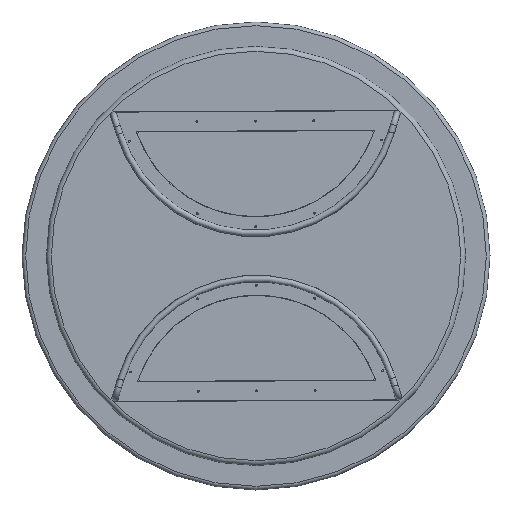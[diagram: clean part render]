
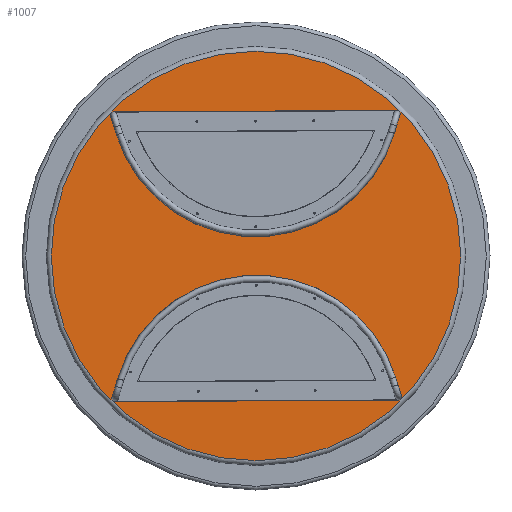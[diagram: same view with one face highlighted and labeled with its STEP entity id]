
A CAD part, front view. The second image highlights one B-rep face of the part: STEP entity #1007.
In plain terms, the highlighted planar face has unit normal (0, -1, 0).
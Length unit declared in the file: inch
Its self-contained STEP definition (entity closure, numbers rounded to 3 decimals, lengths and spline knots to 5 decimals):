
#59=FACE_BOUND('',#341,.T.);
#60=FACE_BOUND('',#342,.T.);
#86=LINE('',#1768,#150);
#91=LINE('',#1782,#155);
#95=LINE('',#1794,#159);
#98=LINE('',#1807,#162);
#99=LINE('',#1811,#163);
#100=LINE('',#1815,#164);
#150=VECTOR('',#1412,0.3937);
#155=VECTOR('',#1425,0.3937);
#159=VECTOR('',#1437,0.3937);
#162=VECTOR('',#1452,0.3937);
#163=VECTOR('',#1455,0.3937);
#164=VECTOR('',#1458,0.3937);
#279=FACE_OUTER_BOUND('',#340,.T.);
#340=EDGE_LOOP('',(#754));
#341=EDGE_LOOP('',(#755,#756,#757,#758,#759,#760));
#342=EDGE_LOOP('',(#761,#762,#763,#764,#765,#766));
#416=CIRCLE('',#1237,14.91674);
#418=CIRCLE('',#1241,0.34375);
#420=CIRCLE('',#1245,0.34375);
#422=CIRCLE('',#1249,21.);
#423=CIRCLE('',#1250,0.34375);
#424=CIRCLE('',#1251,0.34375);
#425=CIRCLE('',#1252,14.91674);
#484=VERTEX_POINT('',#1766);
#485=VERTEX_POINT('',#1767);
#488=VERTEX_POINT('',#1775);
#490=VERTEX_POINT('',#1781);
#492=VERTEX_POINT('',#1787);
#494=VERTEX_POINT('',#1793);
#496=VERTEX_POINT('',#1803);
#497=VERTEX_POINT('',#1805);
#498=VERTEX_POINT('',#1806);
#499=VERTEX_POINT('',#1808);
#500=VERTEX_POINT('',#1810);
#501=VERTEX_POINT('',#1812);
#502=VERTEX_POINT('',#1814);
#579=EDGE_CURVE('',#484,#485,#86,.T.);
#583=EDGE_CURVE('',#485,#488,#416,.T.);
#586=EDGE_CURVE('',#488,#490,#91,.T.);
#589=EDGE_CURVE('',#490,#492,#418,.T.);
#592=EDGE_CURVE('',#492,#494,#95,.T.);
#595=EDGE_CURVE('',#494,#484,#420,.T.);
#597=EDGE_CURVE('',#496,#496,#422,.T.);
#598=EDGE_CURVE('',#497,#498,#98,.T.);
#599=EDGE_CURVE('',#498,#499,#423,.T.);
#600=EDGE_CURVE('',#499,#500,#99,.T.);
#601=EDGE_CURVE('',#500,#501,#424,.T.);
#602=EDGE_CURVE('',#501,#502,#100,.T.);
#603=EDGE_CURVE('',#502,#497,#425,.T.);
#754=ORIENTED_EDGE('',*,*,#597,.F.);
#755=ORIENTED_EDGE('',*,*,#598,.T.);
#756=ORIENTED_EDGE('',*,*,#599,.T.);
#757=ORIENTED_EDGE('',*,*,#600,.T.);
#758=ORIENTED_EDGE('',*,*,#601,.T.);
#759=ORIENTED_EDGE('',*,*,#602,.T.);
#760=ORIENTED_EDGE('',*,*,#603,.T.);
#761=ORIENTED_EDGE('',*,*,#579,.T.);
#762=ORIENTED_EDGE('',*,*,#583,.T.);
#763=ORIENTED_EDGE('',*,*,#586,.T.);
#764=ORIENTED_EDGE('',*,*,#589,.T.);
#765=ORIENTED_EDGE('',*,*,#592,.T.);
#766=ORIENTED_EDGE('',*,*,#595,.T.);
#973=PLANE('',#1248);
#1007=ADVANCED_FACE('',(#279,#59,#60),#973,.F.);
#1237=AXIS2_PLACEMENT_3D('',#1776,#1418,#1419);
#1241=AXIS2_PLACEMENT_3D('',#1788,#1430,#1431);
#1245=AXIS2_PLACEMENT_3D('',#1799,#1442,#1443);
#1248=AXIS2_PLACEMENT_3D('',#1802,#1448,#1449);
#1249=AXIS2_PLACEMENT_3D('',#1804,#1450,#1451);
#1250=AXIS2_PLACEMENT_3D('',#1809,#1453,#1454);
#1251=AXIS2_PLACEMENT_3D('',#1813,#1456,#1457);
#1252=AXIS2_PLACEMENT_3D('',#1816,#1459,#1460);
#1412=DIRECTION('',(0.294,0.,0.956));
#1418=DIRECTION('center_axis',(0.,1.,0.));
#1419=DIRECTION('ref_axis',(-0.956,0.,0.294));
#1425=DIRECTION('',(0.294,0.,-0.956));
#1430=DIRECTION('center_axis',(0.,1.,0.));
#1431=DIRECTION('ref_axis',(0.956,0.,0.294));
#1437=DIRECTION('',(-1.,0.,0.));
#1442=DIRECTION('center_axis',(0.,1.,0.));
#1443=DIRECTION('ref_axis',(0.,0.,-1.));
#1448=DIRECTION('center_axis',(0.,1.,0.));
#1449=DIRECTION('ref_axis',(0.,0.,1.));
#1450=DIRECTION('center_axis',(0.,1.,0.));
#1451=DIRECTION('ref_axis',(1.,0.,0.));
#1452=DIRECTION('',(-0.294,0.,0.956));
#1453=DIRECTION('center_axis',(0.,1.,0.));
#1454=DIRECTION('ref_axis',(0.,0.,1.));
#1455=DIRECTION('',(1.,0.,0.));
#1456=DIRECTION('center_axis',(0.,1.,0.));
#1457=DIRECTION('ref_axis',(0.956,0.,-0.294));
#1458=DIRECTION('',(-0.294,0.,-0.956));
#1459=DIRECTION('center_axis',(0.,1.,0.));
#1460=DIRECTION('ref_axis',(-0.956,0.,-0.294));
#1766=CARTESIAN_POINT('',(-14.84638,0.,-14.41684));
#1767=CARTESIAN_POINT('',(-14.25906,0.,-12.50502));
#1768=CARTESIAN_POINT('',(-11.88906,0.,-4.79035));
#1775=CARTESIAN_POINT('',(14.25906,0.,-12.50502));
#1776=CARTESIAN_POINT('Origin',(0.,0.,-16.88549));
#1781=CARTESIAN_POINT('',(14.84638,0.,-14.41684));
#1782=CARTESIAN_POINT('',(12.18272,0.,-5.74626));
#1787=CARTESIAN_POINT('',(14.51779,0.,-14.86154));
#1788=CARTESIAN_POINT('Origin',(14.51779,0.,-14.51779));
#1793=CARTESIAN_POINT('',(-14.51779,0.,-14.86154));
#1794=CARTESIAN_POINT('',(-7.25889,0.,-14.86154));
#1799=CARTESIAN_POINT('Origin',(-14.51779,0.,-14.51779));
#1802=CARTESIAN_POINT('Origin',(0.,0.,0.));
#1803=CARTESIAN_POINT('',(0.,0.,-21.));
#1804=CARTESIAN_POINT('Origin',(0.,0.,0.));
#1805=CARTESIAN_POINT('',(-14.25906,0.,12.50502));
#1806=CARTESIAN_POINT('',(-14.84638,0.,14.41684));
#1807=CARTESIAN_POINT('',(-11.88906,0.,4.79035));
#1808=CARTESIAN_POINT('',(-14.51779,0.,14.86154));
#1809=CARTESIAN_POINT('Origin',(-14.51779,0.,14.51779));
#1810=CARTESIAN_POINT('',(14.51779,0.,14.86154));
#1811=CARTESIAN_POINT('',(-7.25889,0.,14.86154));
#1812=CARTESIAN_POINT('',(14.84638,0.,14.41684));
#1813=CARTESIAN_POINT('Origin',(14.51779,0.,14.51779));
#1814=CARTESIAN_POINT('',(14.25906,0.,12.50502));
#1815=CARTESIAN_POINT('',(12.18272,0.,5.74626));
#1816=CARTESIAN_POINT('Origin',(0.,0.,16.88549));
